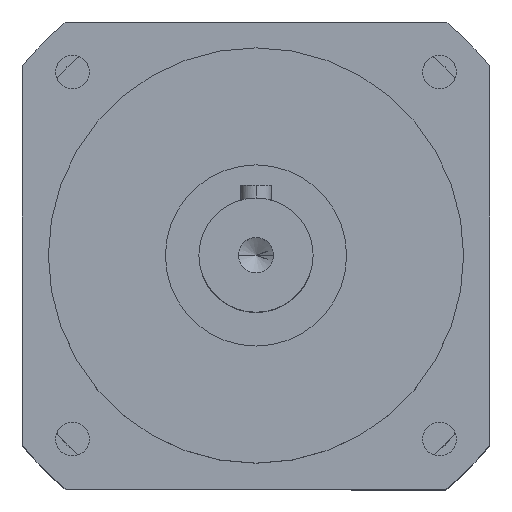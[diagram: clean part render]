
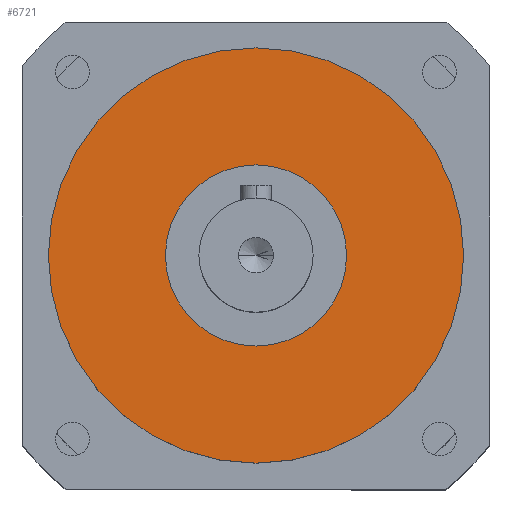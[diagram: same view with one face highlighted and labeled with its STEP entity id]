
A CAD part, top view. The second image highlights one B-rep face of the part: STEP entity #6721.
In plain terms, the highlighted planar face has unit normal (0, 0, 1).
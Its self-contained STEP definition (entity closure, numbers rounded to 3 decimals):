
#134 = AXIS2_PLACEMENT_3D ( 'NONE', #8293, #8294, #8295 ) ;
#187 = AXIS2_PLACEMENT_3D ( 'NONE', #322, #323, #324 ) ;
#197 = AXIS2_PLACEMENT_3D ( 'NONE', #754, #755, #756 ) ;
#220 = AXIS2_PLACEMENT_3D ( 'NONE', #593, #594, #595 ) ;
#286 = AXIS2_PLACEMENT_3D ( 'NONE', #3950, #3955, #3956 ) ;
#322 = CARTESIAN_POINT ( 'NONE',  ( 0., 0., 10. ) ) ;
#323 = DIRECTION ( 'NONE',  ( 0., 0., -1. ) ) ;
#324 = DIRECTION ( 'NONE',  ( 0., 1., 0. ) ) ;
#593 = CARTESIAN_POINT ( 'NONE',  ( 0., 0., 10. ) ) ;
#594 = DIRECTION ( 'NONE',  ( 0., 0., -1. ) ) ;
#595 = DIRECTION ( 'NONE',  ( 0., 1., 0. ) ) ;
#754 = CARTESIAN_POINT ( 'NONE',  ( 0., 0., 10. ) ) ;
#755 = DIRECTION ( 'NONE',  ( 0., 0., -1. ) ) ;
#756 = DIRECTION ( 'NONE',  ( 0., 1., 0. ) ) ;
#2519 = EDGE_CURVE ( 'NONE', #5981, #5871, #7433, .T. ) ;
#3272 = CARTESIAN_POINT ( 'NONE',  ( 0., 40., 10. ) ) ;
#3293 = CARTESIAN_POINT ( 'NONE',  ( 0., 17.45, 10. ) ) ;
#3294 = CARTESIAN_POINT ( 'NONE',  ( 0., -17.45, 10. ) ) ;
#3380 = CARTESIAN_POINT ( 'NONE',  ( 0., -40., 10. ) ) ;
#3950 = CARTESIAN_POINT ( 'NONE',  ( 0., 17.45, 10. ) ) ;
#3953 = PLANE ( 'NONE',  #286 ) ;
#3955 = DIRECTION ( 'NONE',  ( 0., 0., 1. ) ) ;
#3956 = DIRECTION ( 'NONE',  ( 0., -1., 0. ) ) ;
#4701 = EDGE_CURVE ( 'NONE', #5871, #5981, #7254, .T. ) ;
#4725 = EDGE_CURVE ( 'NONE', #5894, #5895, #7215, .T. ) ;
#5200 = FACE_OUTER_BOUND ( 'NONE', #8061, .T. ) ;
#5208 = FACE_BOUND ( 'NONE', #8054, .T. ) ;
#5616 = EDGE_CURVE ( 'NONE', #5895, #5894, #7096, .T. ) ;
#5871 = VERTEX_POINT ( 'NONE', #3272 ) ;
#5894 = VERTEX_POINT ( 'NONE', #3293 ) ;
#5895 = VERTEX_POINT ( 'NONE', #3294 ) ;
#5981 = VERTEX_POINT ( 'NONE', #3380 ) ;
#6126 = ORIENTED_EDGE ( 'NONE', *, *, #4725, .T. ) ;
#6127 = ORIENTED_EDGE ( 'NONE', *, *, #5616, .T. ) ;
#6128 = ORIENTED_EDGE ( 'NONE', *, *, #4701, .F. ) ;
#6129 = ORIENTED_EDGE ( 'NONE', *, *, #2519, .F. ) ;
#6721 = ADVANCED_FACE ( 'NONE', ( #5208, #5200 ), #3953, .T. ) ;
#7096 = CIRCLE ( 'NONE', #220, 17.45 ) ;
#7215 = CIRCLE ( 'NONE', #197, 17.45 ) ;
#7254 = CIRCLE ( 'NONE', #187, 40. ) ;
#7433 = CIRCLE ( 'NONE', #134, 40. ) ;
#8054 = EDGE_LOOP ( 'NONE', ( #6126, #6127 ) ) ;
#8061 = EDGE_LOOP ( 'NONE', ( #6128, #6129 ) ) ;
#8293 = CARTESIAN_POINT ( 'NONE',  ( 0., 0., 10. ) ) ;
#8294 = DIRECTION ( 'NONE',  ( 0., 0., -1. ) ) ;
#8295 = DIRECTION ( 'NONE',  ( 0., 1., 0. ) ) ;
